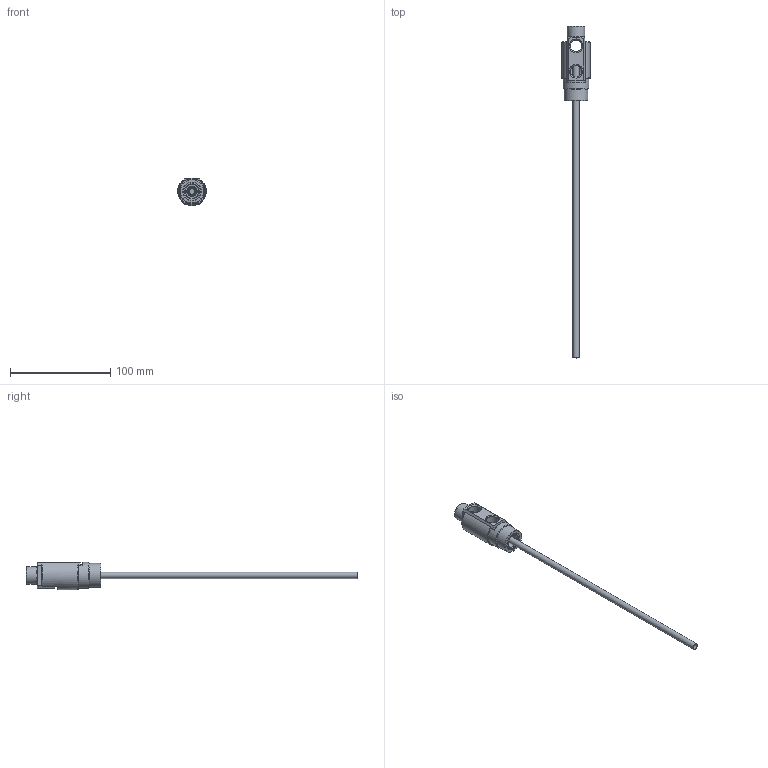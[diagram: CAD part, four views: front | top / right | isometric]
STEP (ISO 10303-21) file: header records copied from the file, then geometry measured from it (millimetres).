
FILE_DESCRIPTION(/* description */ (''),/* implementation_level */ '2;1');
FILE_NAME(/* name */ 'C:/Users/drich/Desktop/SC141N-4-RL v1.step',/* time_stamp */ '2020-01-15T19:44:49-06:00',/* author */ (''),/* organization */ (''),/* preprocessor_version */ 'ST-DEVELOPER v18',/* originating_system */ 'Autodesk Translation Framework v8.12.0.6',/* authorisation */ '');
FILE_SCHEMA (('AUTOMOTIVE_DESIGN { 1 0 10303 214 3 1 1 }'));
Length unit declared in the file: inch
Products named in the file (6): SC141N-4-RL; SC141H-4-RL HEAD; BLACK SEAL; SC141H-4 Sleeve; PT18-250-12; BF-14
Assembly tree (5 placements, depth 3):
  SC141N-4-RL
    SC141H-4-RL HEAD
      BLACK SEAL
      SC141H-4 Sleeve
    PT18-250-12
    BF-14
Bounding box: 28.56 x 331.39 x 27.24 mm (x, y, z)
Volume: 28353.4 mm3; surface area: 29898.5 mm2
Topology: 5 solids, 5 shells, 116 faces, 322 edges, 222 vertices
Faces by surface type: plane 58, cylinder 27, cone 20, torus 11
Full cylindrical faces by diameter (mm): 5.842 x1, 6.35 x1, 7.925 x1, 8.707 x1, 9.621 x1, 10.312 x2, 11.668 x4, 13.032 x1, 13.589 x1, 13.716 x1, 17.45 x1, 17.907 x1, 18.034 x1, 21.057 x1, 23.8 x1, 25.908 x1
Entity records: 4171 total; most frequent: CARTESIAN_POINT 961, DIRECTION 671, ORIENTED_EDGE 642, EDGE_CURVE 321, AXIS2_PLACEMENT_3D 273, VERTEX_POINT 222, CIRCLE 138, EDGE_LOOP 137
